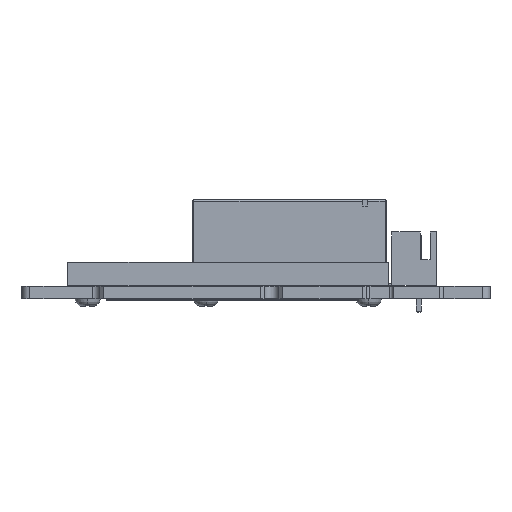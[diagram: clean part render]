
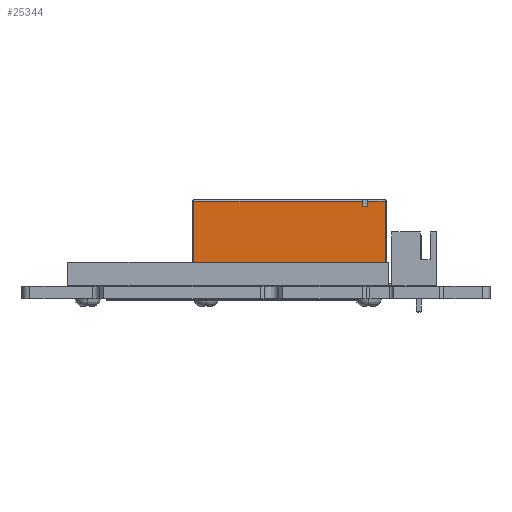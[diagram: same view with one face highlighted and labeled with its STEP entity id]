
A CAD part, front view. The second image highlights one B-rep face of the part: STEP entity #25344.
In plain terms, the highlighted planar face has unit normal (0, -1, 0) as drawn and (-1, 0, 0) by its records, which use the part's own axes.
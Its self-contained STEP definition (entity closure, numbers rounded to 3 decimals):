
#10639 = VERTEX_POINT('',#10640);
#10640 = CARTESIAN_POINT('',(-11.456,-4.524,10.6));
#10646 = EDGE_CURVE('',#10639,#10647,#10649,.T.);
#10647 = VERTEX_POINT('',#10648);
#10648 = CARTESIAN_POINT('',(-11.456,-4.524,-10.6));
#10649 = LINE('',#10650,#10651);
#10650 = CARTESIAN_POINT('',(-11.456,-4.524,12.5));
#10651 = VECTOR('',#10652,1.);
#10652 = DIRECTION('',(0.,0.,-1.));
#24565 = VERTEX_POINT('',#24566);
#24566 = CARTESIAN_POINT('',(-11.456,5.226,-12.3));
#24573 = EDGE_CURVE('',#24574,#24565,#24576,.T.);
#24574 = VERTEX_POINT('',#24575);
#24575 = CARTESIAN_POINT('',(-11.456,5.226,9.4));
#24576 = LINE('',#24577,#24578);
#24577 = CARTESIAN_POINT('',(-11.456,5.226,12.5));
#24578 = VECTOR('',#24579,1.);
#24579 = DIRECTION('',(0.,0.,-1.));
#25315 = EDGE_CURVE('',#25316,#25318,#25320,.T.);
#25316 = VERTEX_POINT('',#25317);
#25317 = CARTESIAN_POINT('',(-11.456,5.226,12.3));
#25318 = VERTEX_POINT('',#25319);
#25319 = CARTESIAN_POINT('',(-11.456,5.226,10.));
#25320 = LINE('',#25321,#25322);
#25321 = CARTESIAN_POINT('',(-11.456,5.226,12.5));
#25322 = VECTOR('',#25323,1.);
#25323 = DIRECTION('',(0.,0.,-1.));
#25344 = ADVANCED_FACE('',(#25345),#25416,.F.);
#25345 = FACE_BOUND('',#25346,.T.);
#25346 = EDGE_LOOP('',(#25347,#25357,#25363,#25364,#25372,#25380,#25386,
    #25387,#25395,#25403,#25409,#25410));
#25347 = ORIENTED_EDGE('',*,*,#25348,.F.);
#25348 = EDGE_CURVE('',#25349,#25351,#25353,.T.);
#25349 = VERTEX_POINT('',#25350);
#25350 = CARTESIAN_POINT('',(-11.456,-5.574,12.3));
#25351 = VERTEX_POINT('',#25352);
#25352 = CARTESIAN_POINT('',(-11.456,-5.574,10.6));
#25353 = LINE('',#25354,#25355);
#25354 = CARTESIAN_POINT('',(-11.456,-5.574,12.5));
#25355 = VECTOR('',#25356,1.);
#25356 = DIRECTION('',(0.,0.,-1.));
#25357 = ORIENTED_EDGE('',*,*,#25358,.T.);
#25358 = EDGE_CURVE('',#25349,#25316,#25359,.T.);
#25359 = LINE('',#25360,#25361);
#25360 = CARTESIAN_POINT('',(-11.456,-4.524,12.3));
#25361 = VECTOR('',#25362,1.);
#25362 = DIRECTION('',(0.,1.,0.));
#25363 = ORIENTED_EDGE('',*,*,#25315,.T.);
#25364 = ORIENTED_EDGE('',*,*,#25365,.F.);
#25365 = EDGE_CURVE('',#25366,#25318,#25368,.T.);
#25366 = VERTEX_POINT('',#25367);
#25367 = CARTESIAN_POINT('',(-11.456,4.626,10.));
#25368 = LINE('',#25369,#25370);
#25369 = CARTESIAN_POINT('',(-11.456,4.626,10.));
#25370 = VECTOR('',#25371,1.);
#25371 = DIRECTION('',(0.,1.,0.));
#25372 = ORIENTED_EDGE('',*,*,#25373,.F.);
#25373 = EDGE_CURVE('',#25374,#25366,#25376,.T.);
#25374 = VERTEX_POINT('',#25375);
#25375 = CARTESIAN_POINT('',(-11.456,4.626,9.4));
#25376 = LINE('',#25377,#25378);
#25377 = CARTESIAN_POINT('',(-11.456,4.626,9.4));
#25378 = VECTOR('',#25379,1.);
#25379 = DIRECTION('',(0.,0.,1.));
#25380 = ORIENTED_EDGE('',*,*,#25381,.T.);
#25381 = EDGE_CURVE('',#25374,#24574,#25382,.T.);
#25382 = LINE('',#25383,#25384);
#25383 = CARTESIAN_POINT('',(-11.456,4.626,9.4));
#25384 = VECTOR('',#25385,1.);
#25385 = DIRECTION('',(0.,1.,0.));
#25386 = ORIENTED_EDGE('',*,*,#24573,.T.);
#25387 = ORIENTED_EDGE('',*,*,#25388,.T.);
#25388 = EDGE_CURVE('',#24565,#25389,#25391,.T.);
#25389 = VERTEX_POINT('',#25390);
#25390 = CARTESIAN_POINT('',(-11.456,-5.574,-12.3));
#25391 = LINE('',#25392,#25393);
#25392 = CARTESIAN_POINT('',(-11.456,-5.574,-12.3));
#25393 = VECTOR('',#25394,1.);
#25394 = DIRECTION('',(0.,-1.,0.));
#25395 = ORIENTED_EDGE('',*,*,#25396,.F.);
#25396 = EDGE_CURVE('',#25397,#25389,#25399,.T.);
#25397 = VERTEX_POINT('',#25398);
#25398 = CARTESIAN_POINT('',(-11.456,-5.574,-10.6));
#25399 = LINE('',#25400,#25401);
#25400 = CARTESIAN_POINT('',(-11.456,-5.574,-12.5));
#25401 = VECTOR('',#25402,1.);
#25402 = DIRECTION('',(0.,0.,-1.));
#25403 = ORIENTED_EDGE('',*,*,#25404,.T.);
#25404 = EDGE_CURVE('',#25397,#10647,#25405,.T.);
#25405 = LINE('',#25406,#25407);
#25406 = CARTESIAN_POINT('',(-11.456,-5.574,-10.6));
#25407 = VECTOR('',#25408,1.);
#25408 = DIRECTION('',(0.,1.,0.));
#25409 = ORIENTED_EDGE('',*,*,#10646,.F.);
#25410 = ORIENTED_EDGE('',*,*,#25411,.F.);
#25411 = EDGE_CURVE('',#25351,#10639,#25412,.T.);
#25412 = LINE('',#25413,#25414);
#25413 = CARTESIAN_POINT('',(-11.456,-5.574,10.6));
#25414 = VECTOR('',#25415,1.);
#25415 = DIRECTION('',(0.,1.,0.));
#25416 = PLANE('',#25417);
#25417 = AXIS2_PLACEMENT_3D('',#25418,#25419,#25420);
#25418 = CARTESIAN_POINT('',(-11.456,-4.524,12.5));
#25419 = DIRECTION('',(1.,0.,0.));
#25420 = DIRECTION('',(0.,-1.,0.));
